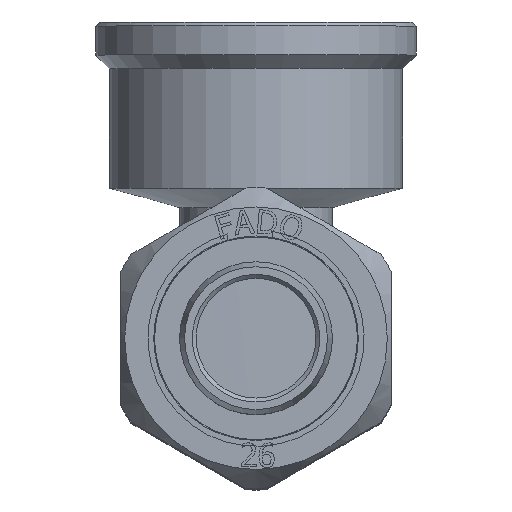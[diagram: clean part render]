
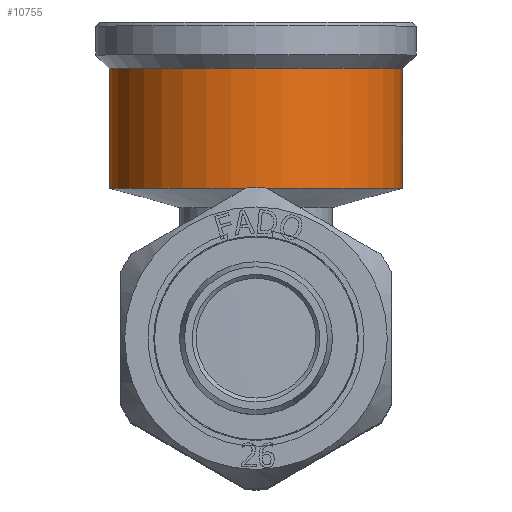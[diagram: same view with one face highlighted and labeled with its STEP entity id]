
A CAD part, top view. The second image highlights one B-rep face of the part: STEP entity #10755.
In plain terms, the highlighted cylindrical face has radius 19 mm (diameter 38 mm), a full revolution.
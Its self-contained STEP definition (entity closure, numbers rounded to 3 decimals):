
#1348=CYLINDRICAL_SURFACE('',#11498,19.);
#1521=FACE_OUTER_BOUND('',#2141,.T.);
#2141=EDGE_LOOP('',(#7628,#7629,#7630,#7631,#7632,#7633));
#2887=LINE('',#14571,#3576);
#3576=VECTOR('',#12411,19.);
#4152=CIRCLE('',#11496,19.);
#4153=CIRCLE('',#11497,19.);
#4154=CIRCLE('',#11499,19.);
#4155=CIRCLE('',#11500,19.);
#4543=VERTEX_POINT('',#14561);
#4544=VERTEX_POINT('',#14562);
#4545=VERTEX_POINT('',#14567);
#4546=VERTEX_POINT('',#14568);
#5754=EDGE_CURVE('',#4543,#4544,#4152,.T.);
#5755=EDGE_CURVE('',#4544,#4543,#4153,.T.);
#5757=EDGE_CURVE('',#4545,#4546,#4154,.T.);
#5758=EDGE_CURVE('',#4546,#4545,#4155,.T.);
#5759=EDGE_CURVE('',#4546,#4544,#2887,.T.);
#7628=ORIENTED_EDGE('',*,*,#5757,.F.);
#7629=ORIENTED_EDGE('',*,*,#5758,.F.);
#7630=ORIENTED_EDGE('',*,*,#5759,.T.);
#7631=ORIENTED_EDGE('',*,*,#5755,.T.);
#7632=ORIENTED_EDGE('',*,*,#5754,.T.);
#7633=ORIENTED_EDGE('',*,*,#5759,.F.);
#10755=ADVANCED_FACE('',(#1521),#1348,.T.);
#11496=AXIS2_PLACEMENT_3D('',#14563,#12400,#12401);
#11497=AXIS2_PLACEMENT_3D('',#14564,#12402,#12403);
#11498=AXIS2_PLACEMENT_3D('',#14566,#12405,#12406);
#11499=AXIS2_PLACEMENT_3D('',#14569,#12407,#12408);
#11500=AXIS2_PLACEMENT_3D('',#14570,#12409,#12410);
#12400=DIRECTION('center_axis',(0.,-1.,0.));
#12401=DIRECTION('ref_axis',(1.,0.,0.));
#12402=DIRECTION('center_axis',(0.,-1.,0.));
#12403=DIRECTION('ref_axis',(1.,0.,0.));
#12405=DIRECTION('center_axis',(0.,-1.,0.));
#12406=DIRECTION('ref_axis',(0.,0.,1.));
#12407=DIRECTION('center_axis',(0.,-1.,0.));
#12408=DIRECTION('ref_axis',(1.,0.,0.));
#12409=DIRECTION('center_axis',(0.,-1.,0.));
#12410=DIRECTION('ref_axis',(1.,0.,0.));
#12411=DIRECTION('',(0.,1.,0.));
#14561=CARTESIAN_POINT('',(0.,35.,19.));
#14562=CARTESIAN_POINT('',(0.,35.,-19.));
#14563=CARTESIAN_POINT('Origin',(0.,35.,0.));
#14564=CARTESIAN_POINT('Origin',(0.,35.,0.));
#14566=CARTESIAN_POINT('Origin',(0.,27.25,0.));
#14567=CARTESIAN_POINT('',(0.,19.5,19.));
#14568=CARTESIAN_POINT('',(0.,19.5,-19.));
#14569=CARTESIAN_POINT('Origin',(0.,19.5,0.));
#14570=CARTESIAN_POINT('Origin',(0.,19.5,0.));
#14571=CARTESIAN_POINT('',(0.,27.25,-19.));
